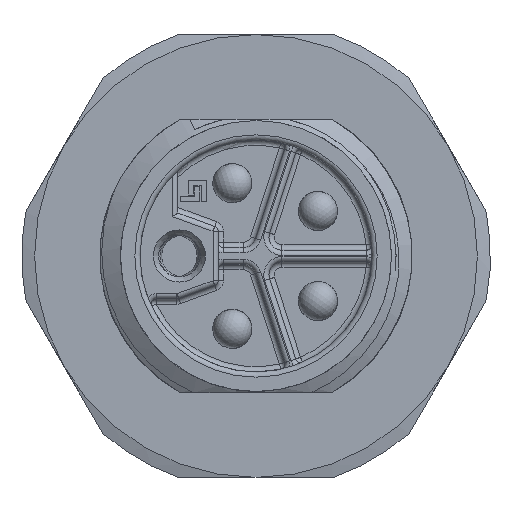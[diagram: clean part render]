
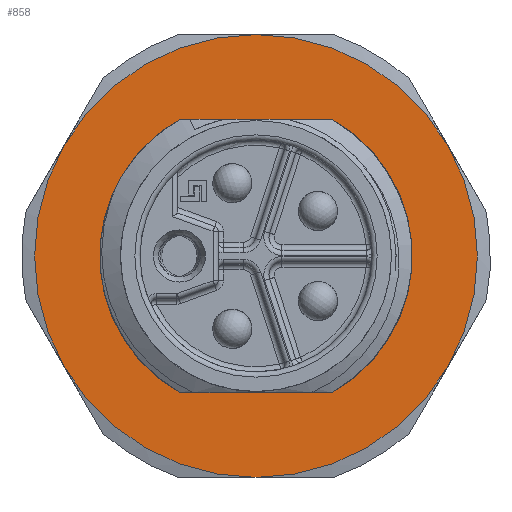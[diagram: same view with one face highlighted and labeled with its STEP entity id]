
A CAD part, left-side view. The second image highlights one B-rep face of the part: STEP entity #858.
In plain terms, the highlighted planar face has unit normal (-1, 0, 0).
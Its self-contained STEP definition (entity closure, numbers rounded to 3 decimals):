
#190=FACE_BOUND('',#1741,.T.);
#191=FACE_BOUND('',#1742,.T.);
#540=CIRCLE('',#7135,8.5);
#543=CIRCLE('',#7140,8.5);
#546=CIRCLE('',#7145,8.5);
#549=CIRCLE('',#7150,8.5);
#551=CIRCLE('',#7153,8.5);
#554=CIRCLE('',#7162,6.);
#555=CIRCLE('',#7164,6.);
#558=CIRCLE('',#7170,8.5);
#858=ADVANCED_FACE('',(#190,#191),#1171,.T.);
#1171=PLANE('',#7171);
#1741=EDGE_LOOP('',(#3032,#3033,#3034,#3035,#3036,#3037));
#1742=EDGE_LOOP('',(#3038,#3039,#3040,#3041));
#3032=ORIENTED_EDGE('',*,*,#5597,.T.);
#3033=ORIENTED_EDGE('',*,*,#5552,.T.);
#3034=ORIENTED_EDGE('',*,*,#5559,.T.);
#3035=ORIENTED_EDGE('',*,*,#5566,.T.);
#3036=ORIENTED_EDGE('',*,*,#5573,.T.);
#3037=ORIENTED_EDGE('',*,*,#5577,.T.);
#3038=ORIENTED_EDGE('',*,*,#5144,.T.);
#3039=ORIENTED_EDGE('',*,*,#5594,.F.);
#3040=ORIENTED_EDGE('',*,*,#5070,.F.);
#3041=ORIENTED_EDGE('',*,*,#5592,.F.);
#4401=VERTEX_POINT('',#9373);
#4402=VERTEX_POINT('',#9374);
#4475=VERTEX_POINT('',#9779);
#4476=VERTEX_POINT('',#9781);
#4766=VERTEX_POINT('',#11463);
#4768=VERTEX_POINT('',#11470);
#4773=VERTEX_POINT('',#11490);
#4778=VERTEX_POINT('',#11510);
#4783=VERTEX_POINT('',#11530);
#4786=VERTEX_POINT('',#11544);
#5070=EDGE_CURVE('',#4401,#4402,#6095,.T.);
#5144=EDGE_CURVE('',#4476,#4475,#6133,.T.);
#5552=EDGE_CURVE('',#4766,#4768,#540,.T.);
#5559=EDGE_CURVE('',#4768,#4773,#543,.T.);
#5566=EDGE_CURVE('',#4773,#4778,#546,.T.);
#5573=EDGE_CURVE('',#4778,#4783,#549,.T.);
#5577=EDGE_CURVE('',#4783,#4786,#551,.T.);
#5592=EDGE_CURVE('',#4476,#4401,#554,.T.);
#5594=EDGE_CURVE('',#4402,#4475,#555,.T.);
#5597=EDGE_CURVE('',#4786,#4766,#558,.T.);
#6095=LINE('',#9372,#6509);
#6133=LINE('',#9780,#6547);
#6509=VECTOR('',#7603,1.);
#6547=VECTOR('',#7643,1.);
#7135=AXIS2_PLACEMENT_3D('',#11471,#8215,#8216);
#7140=AXIS2_PLACEMENT_3D('',#11491,#8227,#8228);
#7145=AXIS2_PLACEMENT_3D('',#11511,#8239,#8240);
#7150=AXIS2_PLACEMENT_3D('',#11531,#8251,#8252);
#7153=AXIS2_PLACEMENT_3D('',#11545,#8257,#8258);
#7162=AXIS2_PLACEMENT_3D('',#11619,#8278,#8279);
#7164=AXIS2_PLACEMENT_3D('',#11627,#8282,#8283);
#7170=AXIS2_PLACEMENT_3D('',#11635,#8294,#8295);
#7171=AXIS2_PLACEMENT_3D('',#11636,#8296,#8297);
#7603=DIRECTION('',(0.,1.,0.));
#7643=DIRECTION('',(0.,1.,0.));
#8215=DIRECTION('',(-1.,0.,0.));
#8216=DIRECTION('',(0.,0.,1.));
#8227=DIRECTION('',(-1.,0.,0.));
#8228=DIRECTION('',(0.,0.,1.));
#8239=DIRECTION('',(-1.,0.,0.));
#8240=DIRECTION('',(0.,0.,1.));
#8251=DIRECTION('',(-1.,0.,0.));
#8252=DIRECTION('',(0.,0.,1.));
#8257=DIRECTION('',(-1.,0.,0.));
#8258=DIRECTION('',(0.,0.,1.));
#8278=DIRECTION('',(-1.,0.,0.));
#8279=DIRECTION('',(0.,0.,1.));
#8282=DIRECTION('',(-1.,0.,0.));
#8283=DIRECTION('',(0.,0.,1.));
#8294=DIRECTION('',(-1.,0.,0.));
#8295=DIRECTION('',(0.,0.,1.));
#8296=DIRECTION('',(-1.,0.,0.));
#8297=DIRECTION('',(0.,0.,1.));
#9372=CARTESIAN_POINT('',(11.,2.905,5.25));
#9373=CARTESIAN_POINT('',(11.,-2.905,5.25));
#9374=CARTESIAN_POINT('',(11.,2.905,5.25));
#9779=CARTESIAN_POINT('',(11.,2.905,-5.25));
#9780=CARTESIAN_POINT('',(11.,2.905,-5.25));
#9781=CARTESIAN_POINT('',(11.,-2.905,-5.25));
#11463=CARTESIAN_POINT('',(11.,7.361,4.25));
#11470=CARTESIAN_POINT('',(11.,7.361,-4.25));
#11471=CARTESIAN_POINT('',(11.,0.,0.));
#11490=CARTESIAN_POINT('',(11.,0.,-8.5));
#11491=CARTESIAN_POINT('',(11.,0.,0.));
#11510=CARTESIAN_POINT('',(11.,-7.361,-4.25));
#11511=CARTESIAN_POINT('',(11.,0.,0.));
#11530=CARTESIAN_POINT('',(11.,-7.361,4.25));
#11531=CARTESIAN_POINT('',(11.,0.,0.));
#11544=CARTESIAN_POINT('',(11.,0.,8.5));
#11545=CARTESIAN_POINT('',(11.,0.,0.));
#11619=CARTESIAN_POINT('',(11.,0.,0.));
#11627=CARTESIAN_POINT('',(11.,0.,0.));
#11635=CARTESIAN_POINT('',(11.,0.,0.));
#11636=CARTESIAN_POINT('',(11.,6.,0.));
